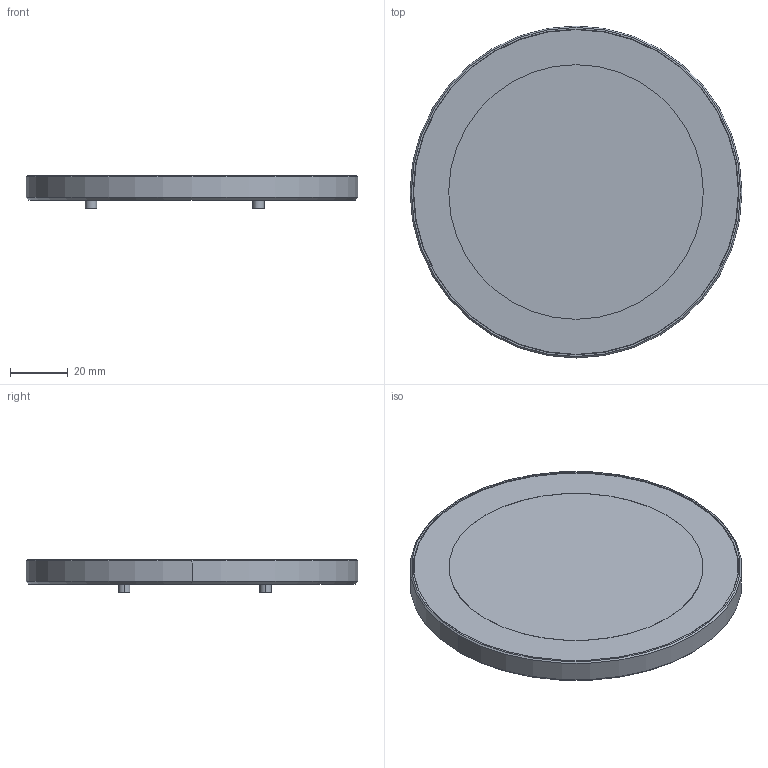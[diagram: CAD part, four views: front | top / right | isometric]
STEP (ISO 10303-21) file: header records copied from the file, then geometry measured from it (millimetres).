
FILE_DESCRIPTION((''),'2;1');
FILE_NAME('3_4-DSI-TOUCH-C_WAIXING','2026-02-10T14:55:25',('ag'),(''),'CREO PARAMETRIC BY PTC INC, 2021063','CREO PARAMETRIC BY PTC INC, 2021063','');
FILE_SCHEMA(('CONFIG_CONTROL_DESIGN','SHAPE_APPEARANCE_LAYERS_GROUPS'));
Length unit declared in the file: millimetre
Products named in the file (1): 3_4-DSI-TOUCH-C_WAIXING
Bounding box: 115 x 115 x 11.4 mm (x, y, z)
Volume: 65718.6 mm3; surface area: 61995.4 mm2
Topology: 1 solids, 1 shells, 1321 faces, 3689 edges, 2409 vertices
Faces by surface type: plane 984, cylinder 298, cone 29, sphere 8, extrusion 2
Entity records: 49303 total; most frequent: CARTESIAN_POINT 7725, ORIENTED_EDGE 7378, DIRECTION 6882, EDGE_CURVE 3689, VECTOR 2968, LINE 2966, VERTEX_POINT 2409, AXIS2_PLACEMENT_3D 1957
